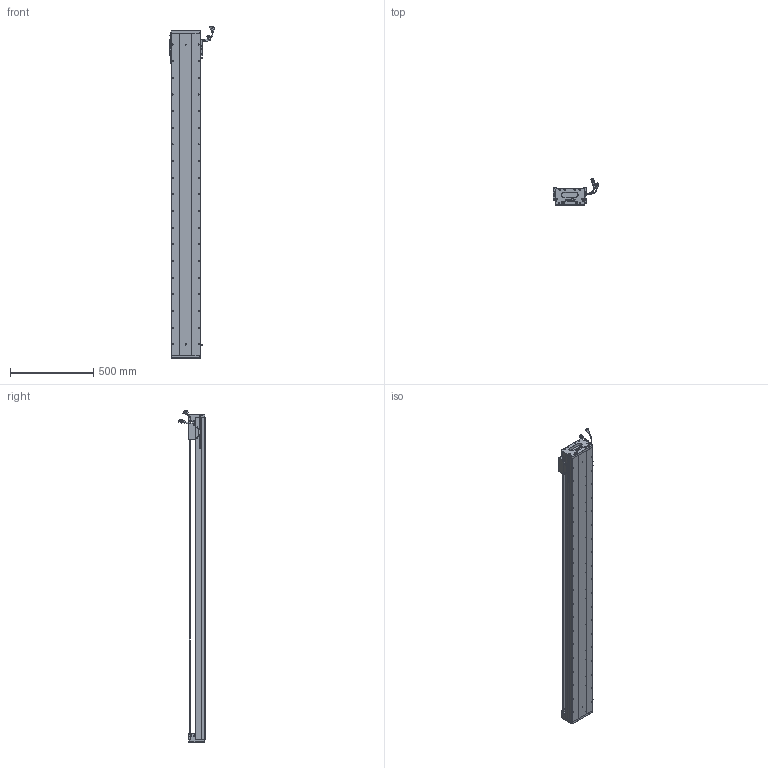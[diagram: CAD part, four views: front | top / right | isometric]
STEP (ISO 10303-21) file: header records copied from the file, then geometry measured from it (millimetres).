
FILE_DESCRIPTION (( 'STEP AP203' ), '1' );
FILE_NAME ('Z1-RY170D-1-L500-B-K.SLDASM_1750.step', '2021-05-17T08:53:48', ( '盈信电脑' ), ( '东莞市道滘镇水果街19号' ), 'SwSTEP 2.0', 'SolidWorks 2016', '' );
FILE_SCHEMA (( 'CONFIG_CONTROL_DESIGN' ));
Length unit declared in the file: millimetre
Products named in the file (36): PSLH080_PSLF2; Z-170詩湍傷裔啣; SCALE-Part-1; SCALE; SEAL; Z1-RY170-L500耀郪菁釱_1750; 080黍杅芛假蚾釱21遴; COVER; SCREW-M1.6-1; Z-RY170詩湍狟揤裔; SCALE-Part-2; SEAL-Part-1; SCREW-M1.6-3; SCREW-M1.7; LABEL; HOLDER0; LABEL-Part-1; 140雄赽晤鎢ん堤盄; PBU_SHEET; Z1-RY170D-1-L500-B-K.SLDASM_1750; Z-RY170詩湍奻揤裔; SCREW-M1.7-1; 170-Z-臏賑輸盄裔(21遴); Z1-RY170臏賑輸(21遴); 榋妏寠巭燃_暯_M2_2; HARNESS-Part-2; Z1-RY170-L500詩湍145mm遵_1750; 覜茼ん672; SHIELDPLATE; RY170直线电机感应器672光电感应片; SCREW-M1.6; SCREW-M1.6-2; 140蚥薯蝶輸; COVER-Part-1; HARNESS-Part-1; HARNESS
Assembly tree (41 placements, depth 4):
  Z1-RY170D-1-L500-B-K.SLDASM_1750
    Z1-RY170-L500耀郪菁釱_1750
    RY170直线电机感应器672光电感应片
    Z1-RY170臏賑輸(21遴)
    覜茼ん672  x3
    PSLH080_PSLF2
      SCALE
        SCALE-Part-1
        SCALE-Part-2
      HARNESS
        HARNESS-Part-1
        HARNESS-Part-2
      LABEL
        LABEL-Part-1
      COVER
        COVER-Part-1
      SEAL
        SEAL-Part-1
      榋妏寠巭燃_暯_M2_2
      SHIELDPLATE
      SCREW-M1.7
      SCREW-M1.7-1
      PBU_SHEET
      SCREW-M1.6
      SCREW-M1.6-1
      SCREW-M1.6-2
      SCREW-M1.6-3
      HOLDER0
    080黍杅芛假蚾釱21遴
    Z1-RY170-L500詩湍145mm遵_1750
    Z-170詩湍傷裔啣  x2
    Z-RY170詩湍奻揤裔  x2
    Z-RY170詩湍狟揤裔  x2
    140蚥薯蝶輸  x2
    170-Z-臏賑輸盄裔(21遴)
    140雄赽晤鎢ん堤盄
Bounding box: 275.34 x 158.11 x 1993.72 mm (x, y, z)
Volume: 9790495.6 mm3; surface area: 2442974.6 mm2
Topology: 36 solids, 36 shells, 3528 faces, 9671 edges, 6057 vertices
Faces by surface type: cylinder 1710, plane 1228, cone 468, torus 69, bspline 53
Entity records: 108267 total; most frequent: CARTESIAN_POINT 29526, ORIENTED_EDGE 15978, DIRECTION 15117, EDGE_CURVE 7989, AXIS2_PLACEMENT_3D 5538, VERTEX_POINT 5175, VECTOR 4041, LINE 4041
